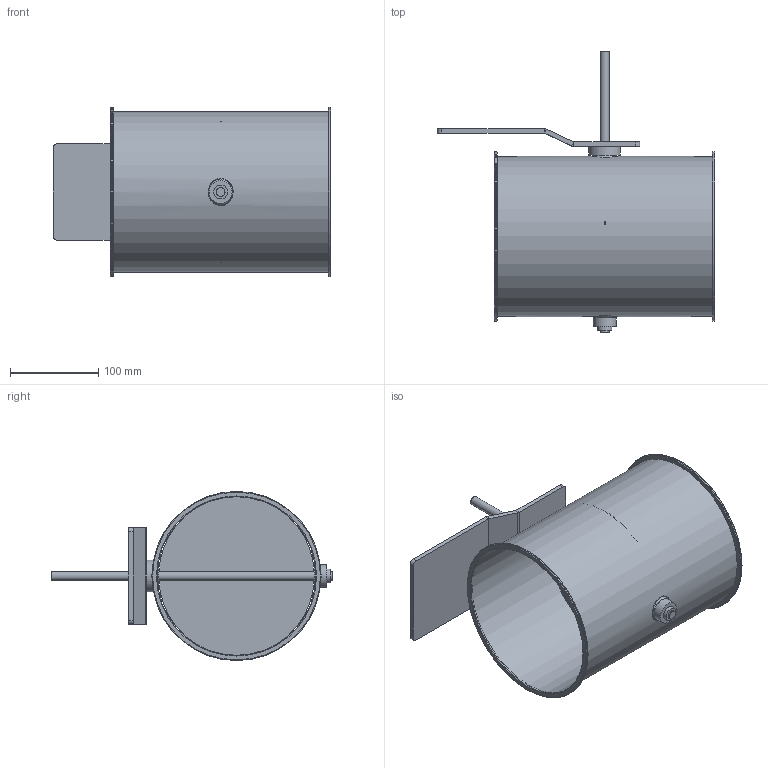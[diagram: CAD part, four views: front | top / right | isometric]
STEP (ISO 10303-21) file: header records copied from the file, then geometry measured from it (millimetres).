
FILE_DESCRIPTION(/* description */ (''),/* implementation_level */ '2;1');
FILE_NAME(/* name */ 'EA126-80B__180_L250_Belimo_Typen_NF_SF.stp',/* time_stamp */ '2017-12-06T13:58:08+01:00',/* author */ (''),/* organization */ (''),/* preprocessor_version */ 'ST-DEVELOPER v11',/* originating_system */ 'SIEMENS UGS NX 6.0',/* authorisation */ '');
FILE_SCHEMA (('CONFIG_CONTROL_DESIGN'));
Length unit declared in the file: millimetre
Products named in the file (1): gars18E2j23h
Bounding box: 315 x 319 x 192 mm (x, y, z)
Volume: 326386.5 mm3; surface area: 420826.3 mm2
Topology: 8 solids, 8 shells, 92 faces, 193 edges, 125 vertices
Faces by surface type: plane 42, cylinder 32, torus 10, cone 4, bspline 4
Full cylindrical faces by diameter (mm): 4.1 x4, 10 x3, 15 x3, 15.85 x2, 16 x2, 24 x2, 26 x1, 36 x1, 180 x1, 181.6 x1, 192 x2
Entity records: 2786 total; most frequent: CARTESIAN_POINT 935, DIRECTION 382, ORIENTED_EDGE 268, AXIS2_PLACEMENT_3D 167, EDGE_LOOP 164, FACE_BOUND 134, EDGE_CURVE 134, VERTEX_POINT 106
